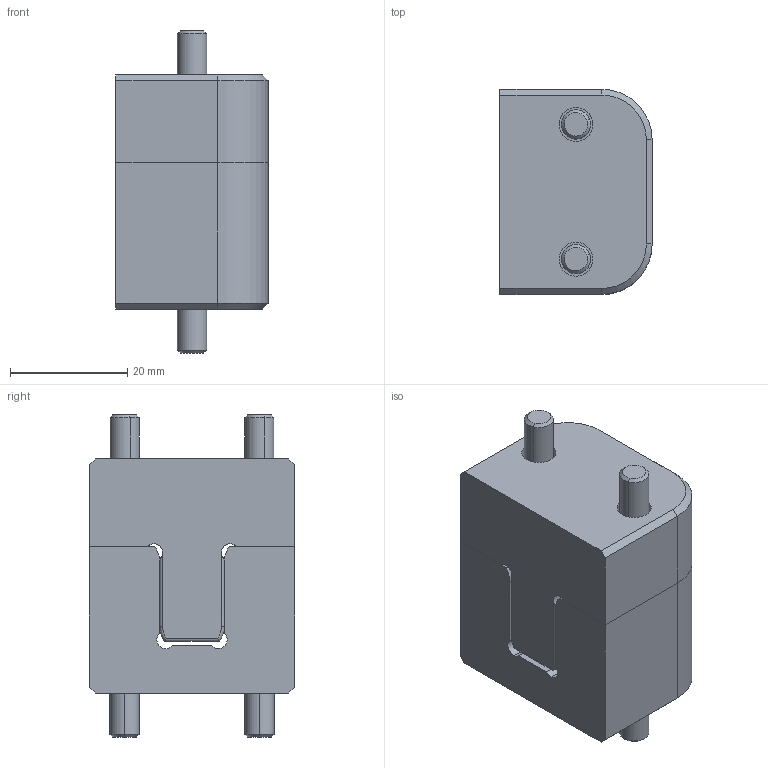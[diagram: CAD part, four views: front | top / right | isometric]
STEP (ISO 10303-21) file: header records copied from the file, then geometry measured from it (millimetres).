
FILE_DESCRIPTION (( 'STEP AP203' ), '1' );
FILE_NAME ('TLM26X35.step', '2018-03-16T16:57:31', ( '' ), ( '' ), 'SwSTEP 2.0', 'SolidWorks 2015', '' );
FILE_SCHEMA (( 'CONFIG_CONTROL_DESIGN' ));
Length unit declared in the file: millimetre
Products named in the file (5): M5_X_25; TLM26X35 FEMALE; M5_X_16; TLM26X35; TLM26X35 MALE
Assembly tree (6 placements, depth 2):
  TLM26X35
    TLM26X35 MALE
    TLM26X35 FEMALE
    M5_X_16  x2
    M5_X_25  x2
Bounding box: 26 x 35 x 55 mm (x, y, z)
Volume: 33230.5 mm3; surface area: 13761.7 mm2
Topology: 6 solids, 6 shells, 441 faces, 961 edges, 628 vertices
Faces by surface type: cylinder 229, plane 168, cone 22, torus 18, bspline 4
Entity records: 12032 total; most frequent: DIRECTION 2141, CARTESIAN_POINT 2139, ORIENTED_EDGE 1770, AXIS2_PLACEMENT_3D 890, EDGE_CURVE 885, VERTEX_POINT 580, EDGE_LOOP 505, CIRCLE 480
